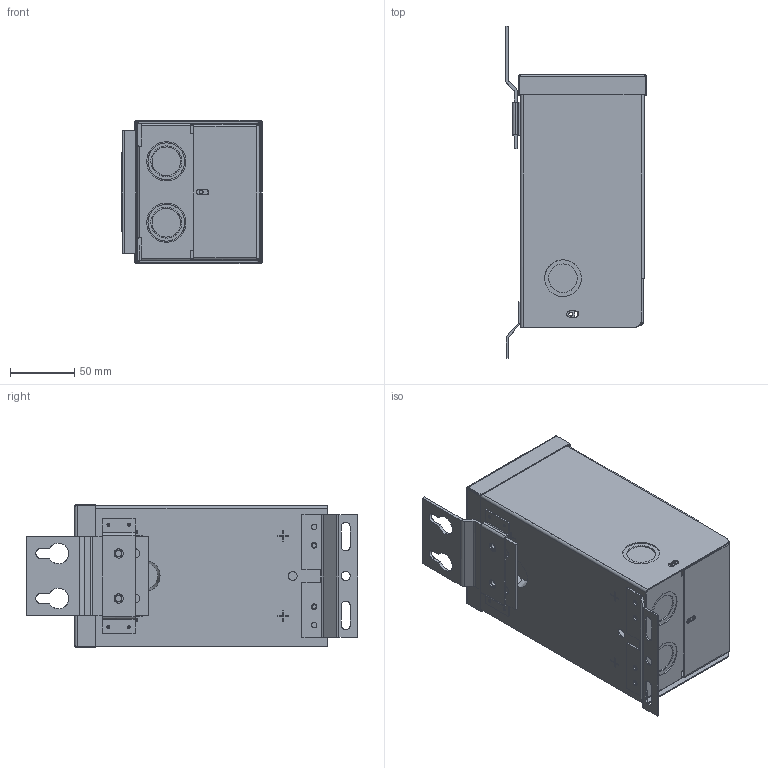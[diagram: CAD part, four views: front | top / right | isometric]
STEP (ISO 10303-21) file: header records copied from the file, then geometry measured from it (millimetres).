
FILE_DESCRIPTION (( 'STEP AP203' ), '1' );
FILE_NAME ('MT-DOE16-1P-240.480V-0.5KVA-120.240V-N3R.STEP', '2024-06-05T20:22:54', ( '' ), ( '' ), 'SwSTEP 2.0', 'SolidWorks 2020', '' );
FILE_SCHEMA (( 'CONFIG_CONTROL_DESIGN' ));
Length unit declared in the file: inch
Products named in the file (2): T253008S; MT-DOE16-1P-240.480V-0.5KVA-120.240V-N3R
Assembly tree (1 placements, depth 2):
  MT-DOE16-1P-240.480V-0.5KVA-120.240V-N3R
    T253008S
Bounding box: 109.3 x 257.42 x 111.22 mm (x, y, z)
Volume: 123905.2 mm3; surface area: 245957.1 mm2
Topology: 1 solids, 1 shells, 471 faces, 1248 edges, 820 vertices
Faces by surface type: plane 277, cylinder 162, bspline 20, cone 12
Entity records: 23868 total; most frequent: CARTESIAN_POINT 12664, ORIENTED_EDGE 2496, DIRECTION 1823, EDGE_CURVE 1248, VERTEX_POINT 820, LINE 807, VECTOR 807, EDGE_LOOP 560
